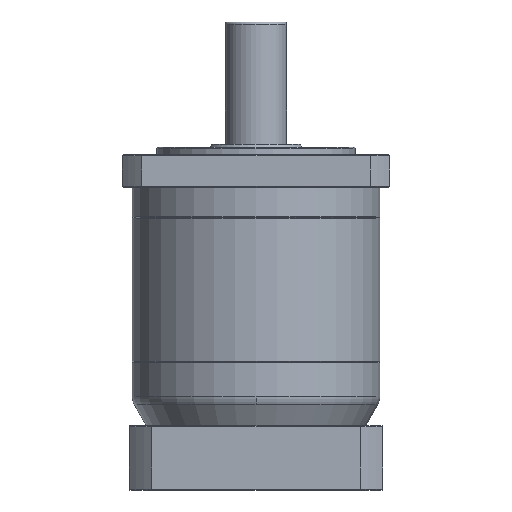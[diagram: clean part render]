
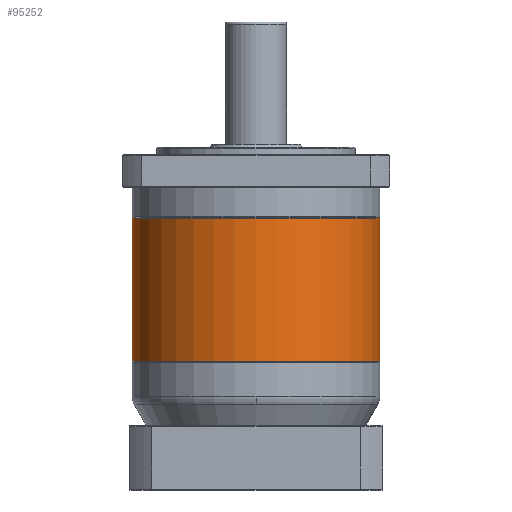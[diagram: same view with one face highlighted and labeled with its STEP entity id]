
A CAD part, front view. The second image highlights one B-rep face of the part: STEP entity #95252.
In plain terms, the highlighted cylindrical face has radius 81 mm (diameter 162 mm), a partial arc.
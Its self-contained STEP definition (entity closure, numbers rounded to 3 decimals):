
#534 = EDGE_CURVE ( 'NONE', #73611, #78405, #10040, .T. ) ;
#811 = VECTOR ( 'NONE', #24772, 1000. ) ;
#1427 = AXIS2_PLACEMENT_3D ( 'NONE', #7726, #38570, #53437 ) ;
#4580 = CARTESIAN_POINT ( 'NONE',  ( -263.218, 46.564, 47.303 ) ) ;
#7726 = CARTESIAN_POINT ( 'NONE',  ( -182.218, 46.564, 47.803 ) ) ;
#8442 = CARTESIAN_POINT ( 'NONE',  ( -101.218, 46.564, 47.803 ) ) ;
#9028 = ORIENTED_EDGE ( 'NONE', *, *, #534, .F. ) ;
#10040 = LINE ( 'NONE', #4580, #24424 ) ;
#12287 = CARTESIAN_POINT ( 'NONE',  ( -182.218, 46.564, 141.303 ) ) ;
#12970 = DIRECTION ( 'NONE',  ( 1., 0., 0. ) ) ;
#13625 = EDGE_CURVE ( 'NONE', #73611, #52625, #70291, .T. ) ;
#19581 = EDGE_CURVE ( 'NONE', #38673, #78405, #85712, .T. ) ;
#19661 = CARTESIAN_POINT ( 'NONE',  ( -101.218, 46.564, 141.303 ) ) ;
#21386 = ORIENTED_EDGE ( 'NONE', *, *, #19581, .T. ) ;
#22105 = EDGE_LOOP ( 'NONE', ( #9028, #27664, #47735, #21386 ) ) ;
#24094 = CARTESIAN_POINT ( 'NONE',  ( -101.218, 46.564, 47.303 ) ) ;
#24424 = VECTOR ( 'NONE', #81431, 1000. ) ;
#24772 = DIRECTION ( 'NONE',  ( 0., 0., 1. ) ) ;
#24803 = AXIS2_PLACEMENT_3D ( 'NONE', #95337, #63657, #12970 ) ;
#26154 = FACE_OUTER_BOUND ( 'NONE', #22105, .T. ) ;
#27664 = ORIENTED_EDGE ( 'NONE', *, *, #13625, .T. ) ;
#29338 = AXIS2_PLACEMENT_3D ( 'NONE', #12287, #57742, #66198 ) ;
#34885 = CARTESIAN_POINT ( 'NONE',  ( -263.218, 46.564, 47.803 ) ) ;
#38570 = DIRECTION ( 'NONE',  ( 0., 0., 1. ) ) ;
#38673 = VERTEX_POINT ( 'NONE', #19661 ) ;
#39938 = EDGE_CURVE ( 'NONE', #52625, #38673, #98516, .T. ) ;
#47735 = ORIENTED_EDGE ( 'NONE', *, *, #39938, .T. ) ;
#52625 = VERTEX_POINT ( 'NONE', #8442 ) ;
#53437 = DIRECTION ( 'NONE',  ( 1., 0., 0. ) ) ;
#57742 = DIRECTION ( 'NONE',  ( 0., 0., -1. ) ) ;
#63657 = DIRECTION ( 'NONE',  ( 0., 0., 1. ) ) ;
#66198 = DIRECTION ( 'NONE',  ( 1., 0., 0. ) ) ;
#70291 = CIRCLE ( 'NONE', #1427, 81. ) ;
#73611 = VERTEX_POINT ( 'NONE', #34885 ) ;
#74773 = CARTESIAN_POINT ( 'NONE',  ( -263.218, 46.564, 141.303 ) ) ;
#76898 = CYLINDRICAL_SURFACE ( 'NONE', #24803, 81. ) ;
#78405 = VERTEX_POINT ( 'NONE', #74773 ) ;
#81431 = DIRECTION ( 'NONE',  ( 0., 0., 1. ) ) ;
#85712 = CIRCLE ( 'NONE', #29338, 81. ) ;
#95252 = ADVANCED_FACE ( 'NONE', ( #26154 ), #76898, .T. ) ;
#95337 = CARTESIAN_POINT ( 'NONE',  ( -182.218, 46.564, 47.303 ) ) ;
#98516 = LINE ( 'NONE', #24094, #811 ) ;
